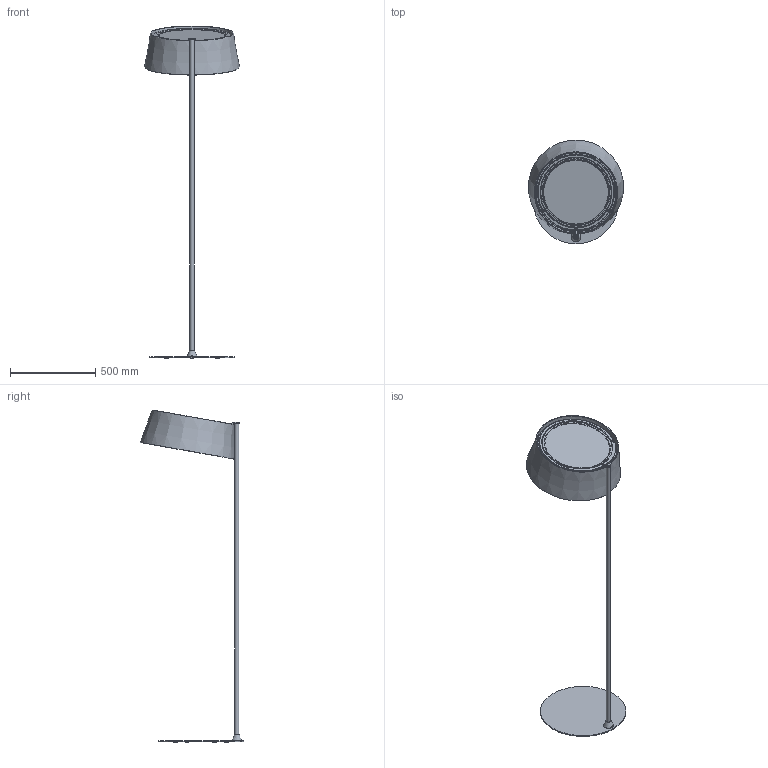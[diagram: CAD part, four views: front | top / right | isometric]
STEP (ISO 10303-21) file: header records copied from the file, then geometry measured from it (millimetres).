
FILE_DESCRIPTION( ( 'Unknown' ), '1' );
FILE_NAME( 'U:/ARCHIVIO TECNICO/ARCHIVIO 3D/8097.stp', 'Unknown', ( 'Unknown' ), ( 'Unknown' ), 'PSStep 17.0.49', 'Unknown', ' ' );
FILE_SCHEMA( ( 'AUTOMOTIVE_DESIGN { 1 0 10303 214 1 1 1 1 }' ) );
Length unit declared in the file: millimetre
Products named in the file (18): 133000040999; 155000434996; 151001171996; 133000040064_1; 152000267999-oa0; LL15047M127; Assem1; 151001169064; H1409-5; 067000037359; 061000202351; 062000098731; 210000046012; F1191-5; 060000062000; 210000077013; R2447-9; F1241-1
Assembly tree (35 placements, depth 3):
  Assem1
    151001169064
    H1409-5  x2
    067000037359
    061000202351
    062000098731
    210000046012  x6
    F1191-5  x6
    060000062000
    210000077013  x2
    R2447-9  x6
    F1241-1  x2
    133000040999
      155000434996
      151001171996
      133000040064_1
    152000267999-oa0
      LL15047M127
Bounding box: 557.14 x 604.59 x 1944.09 mm (x, y, z)
Volume: 8314686.9 mm3; surface area: 1962489.5 mm2
Topology: 33 solids, 33 shells, 1056 faces, 2435 edges, 1364 vertices
Faces by surface type: cylinder 387, plane 350, torus 148, sphere 94, bspline 50, cone 27
Full cylindrical faces by diameter (mm): 2.599 x1, 3 x9, 4 x9, 4.5 x10, 5 x1, 5.153 x2, 5.8 x2, 6 x4, 6.5 x2, 6.917 x1, 7 x1, 8 x1, 9 x6, 12 x3, 14 x1, 20 x7, 25 x1, 25.2 x1, 386 x1, 393 x1, 443 x1, 448 x1, 450 x1, 468 x1, 500 x1
Entity records: 21090 total; most frequent: CARTESIAN_POINT 7051, DIRECTION 2252, ORIENTED_EDGE 1876, AXIS2_PLACEMENT_3D 966, EDGE_CURVE 938, VERTEX_POINT 607, EDGE_LOOP 605, FACE_OUTER_BOUND 529
